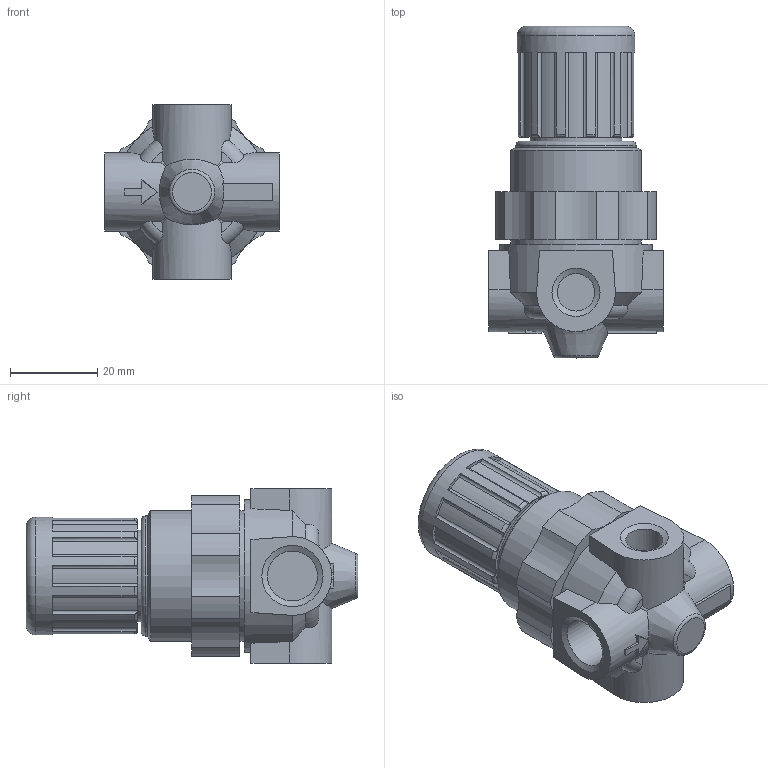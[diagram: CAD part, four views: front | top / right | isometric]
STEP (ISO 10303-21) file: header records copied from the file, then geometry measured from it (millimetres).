
FILE_DESCRIPTION( ( 'STEP AP203' ), ' ' );
FILE_NAME( 'p:/temp/worker_22/268_4348/app_40_02016012109022907500144192d056f_000000_00_00_000000/format_3/9.1601.00.018_V.stp', '2016-01-21T08:02:33', ( '' ), ( '' ), ' ', 'PARTsolutions', ' ' );
FILE_SCHEMA( ( 'CONFIG_CONTROL_DESIGN' ) );
Length unit declared in the file: millimetre
Products named in the file (2): 9.1601.00.018/V; _DR.01 B(0G 1/4)_G
Assembly tree (1 placements, depth 2):
  9.1601.00.018/V
    _DR.01 B(0G 1/4)_G
Bounding box: 40 x 76 x 40 mm (x, y, z)
Volume: 53310.7 mm3; surface area: 12060.8 mm2
Topology: 1 solids, 1 shells, 153 faces, 414 edges, 275 vertices
Faces by surface type: cylinder 66, plane 63, cone 16, torus 8
Full cylindrical faces by diameter (mm): 8.566 x1, 9.728 x1, 11.445 x2, 21 x1, 27 x1, 27.5 x1, 29.8 x1, 30 x1, 35 x1
Entity records: 5190 total; most frequent: CARTESIAN_POINT 1377, DIRECTION 799, ORIENTED_EDGE 762, EDGE_CURVE 381, AXIS2_PLACEMENT_3D 332, VERTEX_POINT 264, EDGE_LOOP 187, FACE_OUTER_BOUND 167
